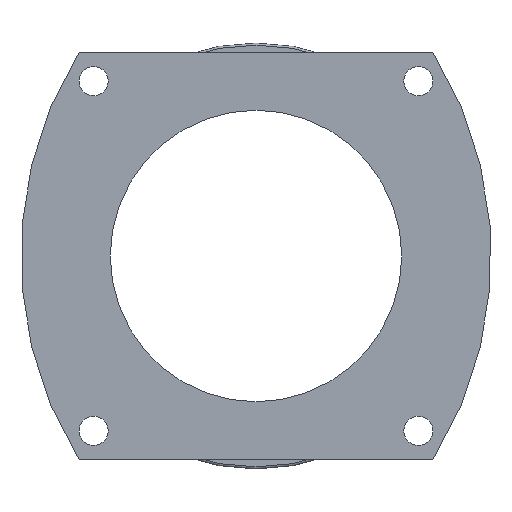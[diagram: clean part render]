
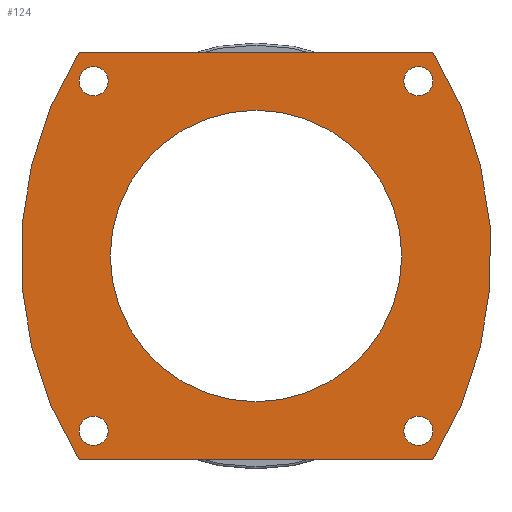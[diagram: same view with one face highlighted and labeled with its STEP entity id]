
A CAD part, left-side view. The second image highlights one B-rep face of the part: STEP entity #124.
In plain terms, the highlighted planar face has unit normal (-1, 0, 0).
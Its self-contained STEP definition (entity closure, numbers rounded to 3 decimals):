
#124 = ADVANCED_FACE( '', ( #284, #285, #286, #287, #288, #289 ), #290, .F. );
#284 = FACE_BOUND( '', #479, .T. );
#285 = FACE_BOUND( '', #480, .T. );
#286 = FACE_BOUND( '', #481, .T. );
#287 = FACE_BOUND( '', #482, .T. );
#288 = FACE_BOUND( '', #483, .T. );
#289 = FACE_OUTER_BOUND( '', #484, .T. );
#290 = PLANE( '', #485 );
#479 = EDGE_LOOP( '', ( #731 ) );
#480 = EDGE_LOOP( '', ( #732 ) );
#481 = EDGE_LOOP( '', ( #733 ) );
#482 = EDGE_LOOP( '', ( #734 ) );
#483 = EDGE_LOOP( '', ( #735 ) );
#484 = EDGE_LOOP( '', ( #736, #737, #738, #739 ) );
#485 = AXIS2_PLACEMENT_3D( '', #740, #741, #742 );
#731 = ORIENTED_EDGE( '', *, *, #868, .T. );
#732 = ORIENTED_EDGE( '', *, *, #916, .T. );
#733 = ORIENTED_EDGE( '', *, *, #935, .T. );
#734 = ORIENTED_EDGE( '', *, *, #896, .T. );
#735 = ORIENTED_EDGE( '', *, *, #871, .T. );
#736 = ORIENTED_EDGE( '', *, *, #910, .F. );
#737 = ORIENTED_EDGE( '', *, *, #930, .F. );
#738 = ORIENTED_EDGE( '', *, *, #890, .F. );
#739 = ORIENTED_EDGE( '', *, *, #936, .F. );
#740 = CARTESIAN_POINT( '', ( -52., 36.25, 0. ) );
#741 = DIRECTION( '', ( 1., 0., 0. ) );
#742 = DIRECTION( '', ( 0., 0., -1. ) );
#868 = EDGE_CURVE( '', #976, #976, #977, .T. );
#871 = EDGE_CURVE( '', #981, #981, #982, .T. );
#890 = EDGE_CURVE( '', #1012, #1013, #1014, .T. );
#896 = EDGE_CURVE( '', #1023, #1023, #1024, .T. );
#910 = EDGE_CURVE( '', #1045, #1046, #1047, .T. );
#916 = EDGE_CURVE( '', #1056, #1056, #1057, .T. );
#930 = EDGE_CURVE( '', #1013, #1045, #1077, .T. );
#935 = EDGE_CURVE( '', #1083, #1083, #1084, .T. );
#936 = EDGE_CURVE( '', #1046, #1012, #1085, .T. );
#976 = VERTEX_POINT( '', #1132 );
#977 = CIRCLE( '', #1133, 35. );
#981 = VERTEX_POINT( '', #1137 );
#982 = CIRCLE( '', #1138, 3.5 );
#1012 = VERTEX_POINT( '', #1168 );
#1013 = VERTEX_POINT( '', #1169 );
#1014 = LINE( '', #1170, #1171 );
#1023 = VERTEX_POINT( '', #1183 );
#1024 = CIRCLE( '', #1184, 3.5 );
#1045 = VERTEX_POINT( '', #1205 );
#1046 = VERTEX_POINT( '', #1206 );
#1047 = LINE( '', #1207, #1208 );
#1056 = VERTEX_POINT( '', #1220 );
#1057 = CIRCLE( '', #1221, 3.5 );
#1077 = CIRCLE( '', #1241, 92.75 );
#1083 = VERTEX_POINT( '', #1247 );
#1084 = CIRCLE( '', #1248, 3.5 );
#1085 = CIRCLE( '', #1249, 92.75 );
#1132 = CARTESIAN_POINT( '', ( -52., 0., -35. ) );
#1133 = AXIS2_PLACEMENT_3D( '', #1298, #1299, #1300 );
#1137 = CARTESIAN_POINT( '', ( -52., 39., -45.5 ) );
#1138 = AXIS2_PLACEMENT_3D( '', #1304, #1305, #1306 );
#1168 = CARTESIAN_POINT( '', ( -52., -42.5, -49. ) );
#1169 = CARTESIAN_POINT( '', ( -52., 42.5, -49. ) );
#1170 = CARTESIAN_POINT( '', ( -52., -42.5, -49. ) );
#1171 = VECTOR( '', #1340, 1000. );
#1183 = CARTESIAN_POINT( '', ( -52., -39., -45.5 ) );
#1184 = AXIS2_PLACEMENT_3D( '', #1347, #1348, #1349 );
#1205 = CARTESIAN_POINT( '', ( -52., 42.5, 49. ) );
#1206 = CARTESIAN_POINT( '', ( -52., -42.5, 49. ) );
#1207 = CARTESIAN_POINT( '', ( -52., 42.5, 49. ) );
#1208 = VECTOR( '', #1371, 1000. );
#1220 = CARTESIAN_POINT( '', ( -52., -39., 38.5 ) );
#1221 = AXIS2_PLACEMENT_3D( '', #1378, #1379, #1380 );
#1241 = AXIS2_PLACEMENT_3D( '', #1399, #1400, #1401 );
#1247 = CARTESIAN_POINT( '', ( -52., 39., 38.5 ) );
#1248 = AXIS2_PLACEMENT_3D( '', #1408, #1409, #1410 );
#1249 = AXIS2_PLACEMENT_3D( '', #1411, #1412, #1413 );
#1298 = CARTESIAN_POINT( '', ( -52., 0., 0. ) );
#1299 = DIRECTION( '', ( 1., 0., 0. ) );
#1300 = DIRECTION( '', ( 0., 0., -1. ) );
#1304 = CARTESIAN_POINT( '', ( -52., 39., -42. ) );
#1305 = DIRECTION( '', ( 1., 0., 0. ) );
#1306 = DIRECTION( '', ( 0., 0., -1. ) );
#1340 = DIRECTION( '', ( 0., 1., 0. ) );
#1347 = CARTESIAN_POINT( '', ( -52., -39., -42. ) );
#1348 = DIRECTION( '', ( 1., 0., 0. ) );
#1349 = DIRECTION( '', ( 0., 0., -1. ) );
#1371 = DIRECTION( '', ( 0., -1., 0. ) );
#1378 = CARTESIAN_POINT( '', ( -52., -39., 42. ) );
#1379 = DIRECTION( '', ( 1., 0., 0. ) );
#1380 = DIRECTION( '', ( 0., 0., -1. ) );
#1399 = CARTESIAN_POINT( '', ( -52., -36.25, 0. ) );
#1400 = DIRECTION( '', ( 1., 0., 0. ) );
#1401 = DIRECTION( '', ( 0., 0., -1. ) );
#1408 = CARTESIAN_POINT( '', ( -52., 39., 42. ) );
#1409 = DIRECTION( '', ( 1., 0., 0. ) );
#1410 = DIRECTION( '', ( 0., 0., -1. ) );
#1411 = CARTESIAN_POINT( '', ( -52., 36.25, 0. ) );
#1412 = DIRECTION( '', ( 1., 0., 0. ) );
#1413 = DIRECTION( '', ( 0., 0., -1. ) );
